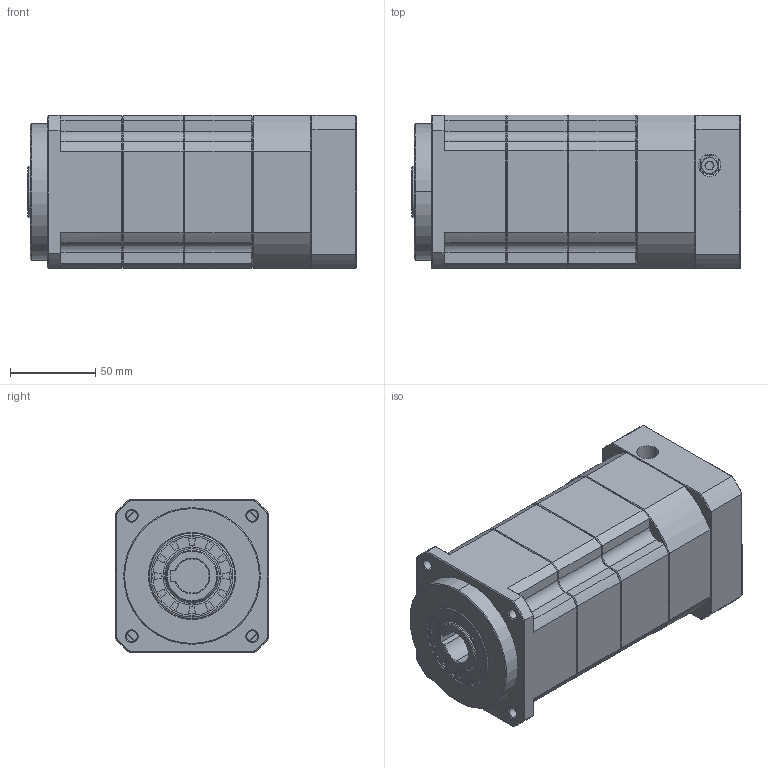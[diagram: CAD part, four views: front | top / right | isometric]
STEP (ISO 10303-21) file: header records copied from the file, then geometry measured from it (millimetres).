
FILE_DESCRIPTION (( 'STEP AP214' ), '1' );
FILE_NAME ('ZPB090-K20-L3-P1-19-80-100-M6.step', '2024-06-07T18:28:14', ( 'Windows 蚚誧' ), ( 'Organization' ), 'SwSTEP 2.0', 'SolidWorks 2016', '' );
FILE_SCHEMA (( 'AUTOMOTIVE_DESIGN' ));
Length unit declared in the file: millimetre
Products named in the file (1): ZPB090-K20-L3-P1-19-80-100-M6
Bounding box: 192.5 x 90 x 90 mm (x, y, z)
Surface area: 114451.5 mm2 (no closed solid volume)
Topology: 0 solids, 37 shells, 1936 faces, 5113 edges, 3233 vertices
Faces by surface type: plane 1003, bspline 383, cone 309, cylinder 241
Entity records: 90772 total; most frequent: CARTESIAN_POINT 41374, ORIENTED_EDGE 10133, DIRECTION 7933, EDGE_CURVE 5113, VECTOR 3361, LINE 3361, VERTEX_POINT 3233, AXIS2_PLACEMENT_3D 2286
